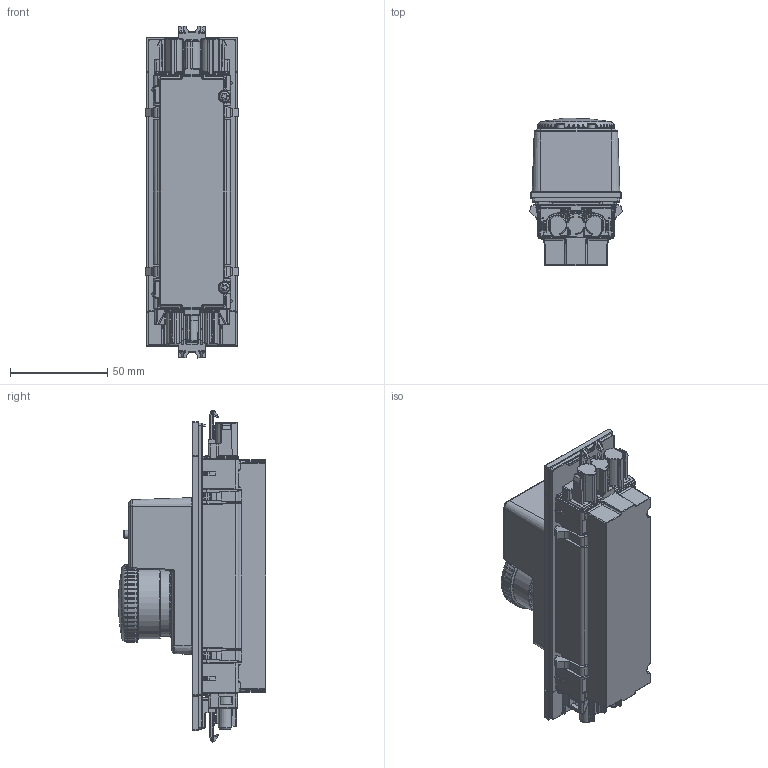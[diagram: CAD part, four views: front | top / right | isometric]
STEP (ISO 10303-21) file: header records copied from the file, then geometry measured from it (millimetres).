
FILE_DESCRIPTION (( 'STEP AP203' ), '1' );
FILE_NAME ('QF30 E-stop_1.STEP', '2022-03-11T16:53:14', ( '' ), ( '' ), 'SwSTEP 2.0', 'SolidWorks 2021', '' );
FILE_SCHEMA (( 'CONFIG_CONTROL_DESIGN' ));
Products named in the file (1): QF30 E-stop_1
Bounding box: 48.41 x 75.98 x 171.11 mm (x, y, z)
Volume: 289830.7 mm3; surface area: 46245.2 mm2
Topology: 1 solids, 10 shells, 3186 faces, 7803 edges, 4597 vertices
Faces by surface type: cylinder 1160, plane 877, bspline 710, sphere 191, torus 171, cone 77
Full cylindrical faces by diameter (mm): 4 x2, 5.6 x2, 34.3 x1, 36.9 x1
Entity records: 108274 total; most frequent: CARTESIAN_POINT 40775, ORIENTED_EDGE 15476, DIRECTION 12687, EDGE_CURVE 7738, AXIS2_PLACEMENT_3D 4649, VERTEX_POINT 4584, VECTOR 3389, LINE 3389
